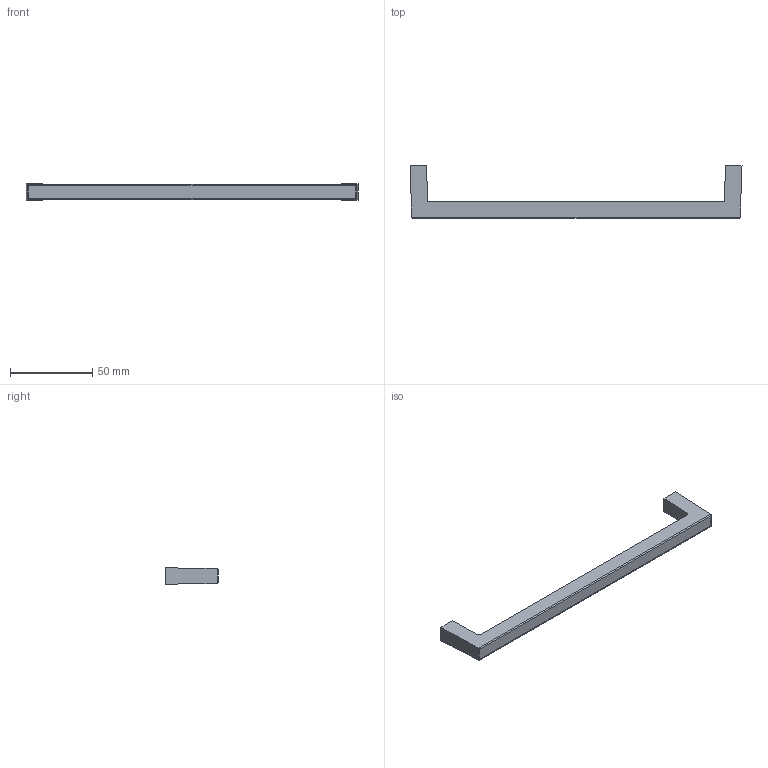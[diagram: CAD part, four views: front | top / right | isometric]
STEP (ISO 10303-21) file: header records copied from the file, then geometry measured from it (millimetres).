
FILE_DESCRIPTION( ( '' ), '1' );
FILE_NAME( 'D:/1.AUTOCAD EXPORT/Group 10/sheet_10_1/115064.stp', '2013-10-22T04:24:49', ( '' ), ( '' ), ' ', ' ', ' ' );
FILE_SCHEMA( ( 'automotive_design' ) );
Length unit declared in the file: millimetre
Products named in the file (1): 1
Bounding box: 202 x 32 x 10 mm (x, y, z)
Volume: 22114.5 mm3; surface area: 9619.4 mm2
Topology: 1 solids, 1 shells, 22 faces, 54 edges, 36 vertices
Faces by surface type: plane 12, cylinder 10
Entity records: 1332 total; most frequent: CARTESIAN_POINT 149, STYLED_ITEM 113, PRESENTATION_STYLE_ASSIGNMENT 113, COLOUR_RGB 113, DIRECTION 112, ORIENTED_EDGE 108, EDGE_CURVE 54, CURVE_STYLE 54
